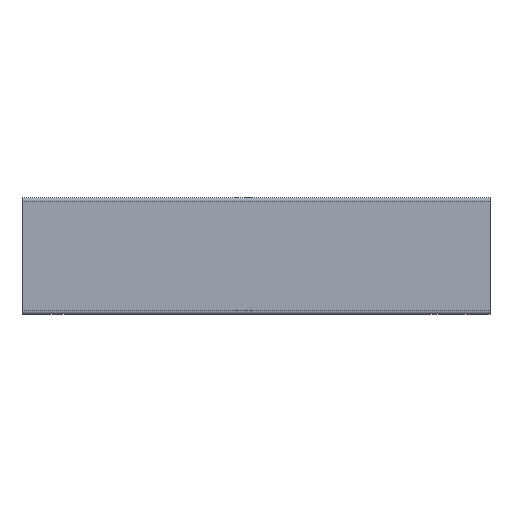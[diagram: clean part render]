
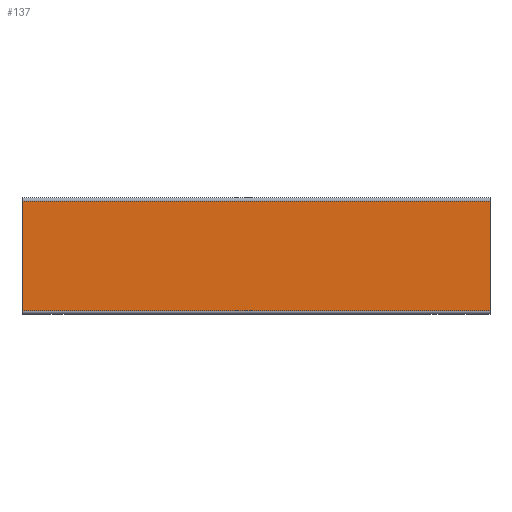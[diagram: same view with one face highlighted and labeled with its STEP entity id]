
A CAD part, left-side view. The second image highlights one B-rep face of the part: STEP entity #137.
In plain terms, the highlighted planar face has unit normal (-1, 0, 0).
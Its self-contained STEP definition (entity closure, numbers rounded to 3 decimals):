
#137=ADVANCED_FACE('',(#273),#274,.F.);
#273=FACE_OUTER_BOUND('',#401,.T.);
#274=PLANE('',#402);
#401=EDGE_LOOP('',(#774,#775,#776,#777));
#402=AXIS2_PLACEMENT_3D('',#778,#779,#780);
#774=ORIENTED_EDGE('',*,*,#924,.T.);
#775=ORIENTED_EDGE('',*,*,#845,.F.);
#776=ORIENTED_EDGE('',*,*,#933,.F.);
#777=ORIENTED_EDGE('',*,*,#939,.T.);
#778=CARTESIAN_POINT('',(0.0,0.,9.7));
#779=DIRECTION('',(1.0,0.0,0.0));
#780=DIRECTION('',(0.0,1.0,0.0));
#845=EDGE_CURVE('',#1035,#1030,#1037,.T.);
#924=EDGE_CURVE('',#1149,#1030,#1150,.T.);
#933=EDGE_CURVE('',#1159,#1035,#1161,.T.);
#939=EDGE_CURVE('',#1159,#1149,#1167,.T.);
#1030=VERTEX_POINT('',#1286);
#1035=VERTEX_POINT('',#1292);
#1037=LINE('',#1294,#1295);
#1149=VERTEX_POINT('',#1441);
#1150=LINE('',#1442,#1443);
#1159=VERTEX_POINT('',#1455);
#1161=LINE('',#1457,#1458);
#1167=LINE('',#1465,#1466);
#1286=CARTESIAN_POINT('',(0.0,40.0,0.3));
#1292=CARTESIAN_POINT('',(0.0,0.,0.3));
#1294=CARTESIAN_POINT('',(0.0,0.,0.3));
#1295=VECTOR('',#1542,1.0);
#1441=CARTESIAN_POINT('',(0.0,40.0,9.7));
#1442=CARTESIAN_POINT('',(0.0,40.0,9.7));
#1443=VECTOR('',#1649,1.0);
#1455=CARTESIAN_POINT('',(0.0,0.,9.7));
#1457=CARTESIAN_POINT('',(0.0,0.,9.7));
#1458=VECTOR('',#1659,1.0);
#1465=CARTESIAN_POINT('',(0.0,0.,9.7));
#1466=VECTOR('',#1664,1.0);
#1542=DIRECTION('',(0.0,1.0,0.0));
#1649=DIRECTION('',(0.0,0.0,-1.0));
#1659=DIRECTION('',(0.0,0.0,-1.0));
#1664=DIRECTION('',(0.0,1.0,0.0));
